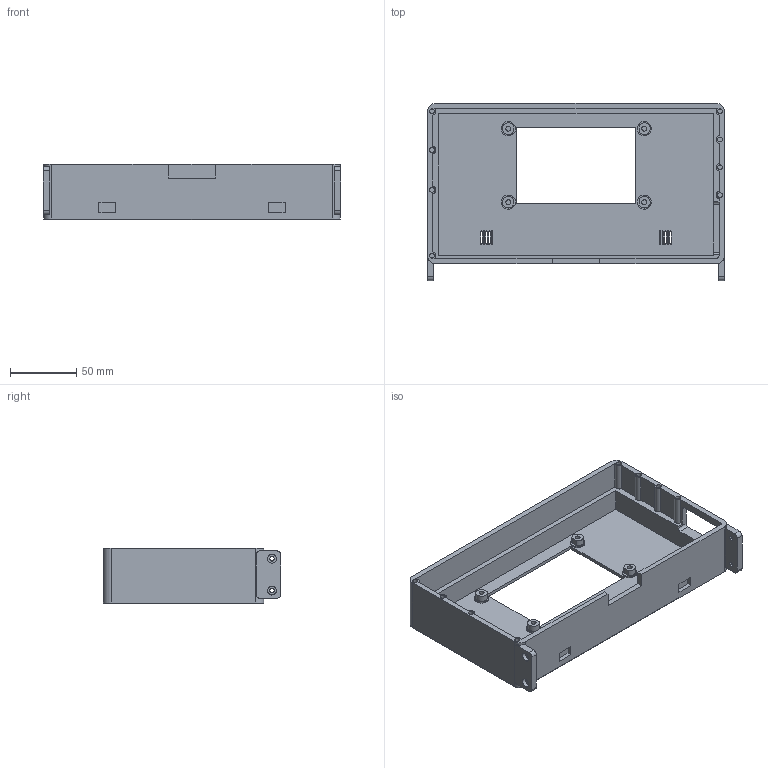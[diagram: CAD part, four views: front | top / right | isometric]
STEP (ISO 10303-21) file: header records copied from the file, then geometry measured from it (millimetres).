
FILE_DESCRIPTION(('Open CASCADE Model'),'2;1');
FILE_NAME('Open CASCADE Shape Model','2026-11-10T17:02:06',('Author'),( 'Open CASCADE'),'Open CASCADE STEP processor 7.9','Open CASCADE 7.9' ,'Unknown');
FILE_SCHEMA(('AUTOMOTIVE_DESIGN { 1 0 10303 214 1 1 1 1 }'));
Length unit declared in the file: millimetre
Products named in the file (2): T09_Main_board_enclosure; 01_Main_board_enclosure
Assembly tree (1 placements, depth 2):
  T09_Main_board_enclosure
    01_Main_board_enclosure
Bounding box: 224.6 x 133.8 x 42 mm (x, y, z)
Volume: 207479.2 mm3; surface area: 101616.5 mm2
Topology: 1 solids, 1 shells, 483 faces, 1300 edges, 864 vertices
Faces by surface type: plane 225, extrusion 153, cylinder 101, cone 4
Full cylindrical faces by diameter (mm): 3.4 x4, 3.7 x12, 6.7 x4, 10.8 x4
Entity records: 32861 total; most frequent: CARTESIAN_POINT 7508, DIRECTION 4249, VECTOR 3018, LINE 2865, ORIENTED_EDGE 2600, PCURVE 2600, DEFINITIONAL_REPRESENTATION 2600, EDGE_CURVE 1300
